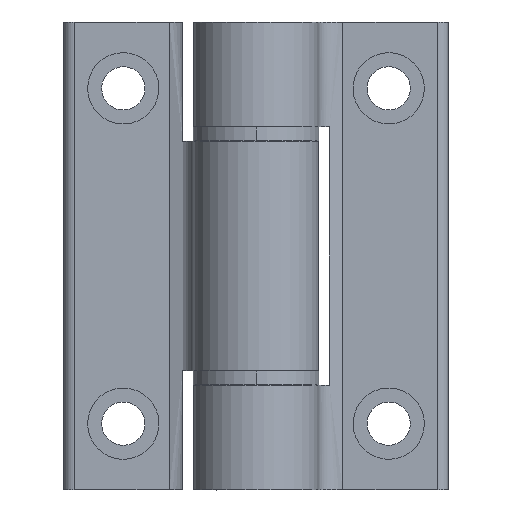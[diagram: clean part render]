
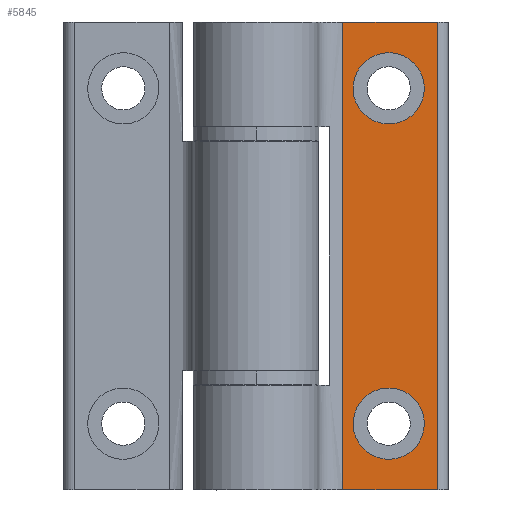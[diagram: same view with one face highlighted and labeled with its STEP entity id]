
A CAD part, front view. The second image highlights one B-rep face of the part: STEP entity #5845.
In plain terms, the highlighted planar face has unit normal (0, -1, 0).
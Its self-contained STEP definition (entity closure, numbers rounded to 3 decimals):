
#1107=CARTESIAN_POINT('',(8.252,4.75,-28.875));
#1108=VERTEX_POINT('',#1107);
#1117=CARTESIAN_POINT('',(14.85,4.75,-24.));
#1118=VERTEX_POINT('',#1117);
#1119=CARTESIAN_POINT('',(9.75,4.75,-24.));
#1120=DIRECTION('',(0.0,1.0,0.0));
#1121=DIRECTION('',(1.0,0.0,0.0));
#1122=AXIS2_PLACEMENT_3D('',#1119,#1120,#1121);
#1123=CIRCLE('',#1122,5.1);
#1124=EDGE_CURVE('',#1118,#1108,#1123,.T.);
#1126=CARTESIAN_POINT('',(11.248,4.75,-19.125));
#1127=VERTEX_POINT('',#1126);
#1128=CARTESIAN_POINT('',(9.75,4.75,-24.));
#1129=DIRECTION('',(0.0,1.0,0.0));
#1130=DIRECTION('',(1.0,0.0,0.0));
#1131=AXIS2_PLACEMENT_3D('',#1128,#1129,#1130);
#1132=CIRCLE('',#1131,5.1);
#1133=EDGE_CURVE('',#1127,#1118,#1132,.T.);
#1251=CARTESIAN_POINT('',(8.252,4.75,19.125));
#1252=VERTEX_POINT('',#1251);
#1261=CARTESIAN_POINT('',(14.85,4.75,24.0));
#1262=VERTEX_POINT('',#1261);
#1263=CARTESIAN_POINT('',(9.75,4.75,24.0));
#1264=DIRECTION('',(0.0,1.0,0.0));
#1265=DIRECTION('',(1.0,0.0,0.0));
#1266=AXIS2_PLACEMENT_3D('',#1263,#1264,#1265);
#1267=CIRCLE('',#1266,5.1);
#1268=EDGE_CURVE('',#1262,#1252,#1267,.T.);
#1270=CARTESIAN_POINT('',(11.248,4.75,28.875));
#1271=VERTEX_POINT('',#1270);
#1272=CARTESIAN_POINT('',(9.75,4.75,24.0));
#1273=DIRECTION('',(0.0,1.0,0.0));
#1274=DIRECTION('',(1.0,0.0,0.0));
#1275=AXIS2_PLACEMENT_3D('',#1272,#1273,#1274);
#1276=CIRCLE('',#1275,5.1);
#1277=EDGE_CURVE('',#1271,#1262,#1276,.T.);
#4379=CARTESIAN_POINT('',(9.75,4.75,24.0));
#4380=DIRECTION('',(0.0,1.0,0.0));
#4381=DIRECTION('',(1.0,0.0,0.0));
#4382=AXIS2_PLACEMENT_3D('',#4379,#4380,#4381);
#4383=CIRCLE('',#4382,5.1);
#4384=EDGE_CURVE('',#1252,#1271,#4383,.T.);
#4489=CARTESIAN_POINT('',(9.75,4.75,-24.));
#4490=DIRECTION('',(0.0,1.0,0.0));
#4491=DIRECTION('',(1.0,0.0,0.0));
#4492=AXIS2_PLACEMENT_3D('',#4489,#4490,#4491);
#4493=CIRCLE('',#4492,5.1);
#4494=EDGE_CURVE('',#1108,#1127,#4493,.T.);
#5304=CARTESIAN_POINT('',(3.16,4.75,-33.5));
#5305=VERTEX_POINT('',#5304);
#5313=CARTESIAN_POINT('',(3.16,4.75,33.5));
#5314=VERTEX_POINT('',#5313);
#5315=CARTESIAN_POINT('',(3.16,4.75,-33.5));
#5316=DIRECTION('',(0.0,0.0,1.0));
#5317=VECTOR('',#5316,67.0);
#5318=LINE('',#5315,#5317);
#5319=EDGE_CURVE('',#5305,#5314,#5318,.T.);
#5786=CARTESIAN_POINT('',(16.75,4.749,33.5));
#5787=VERTEX_POINT('',#5786);
#5795=CARTESIAN_POINT('',(16.75,4.75,-33.5));
#5796=VERTEX_POINT('',#5795);
#5797=CARTESIAN_POINT('',(16.75,4.75,-33.5));
#5798=DIRECTION('',(0.0,0.0,1.0));
#5799=VECTOR('',#5798,67.0);
#5800=LINE('',#5797,#5799);
#5801=EDGE_CURVE('',#5796,#5787,#5800,.T.);
#5814=CARTESIAN_POINT('',(16.75,4.75,-33.5));
#5815=DIRECTION('',(0.0,-1.0,0.0));
#5816=DIRECTION('',(1.0,0.0,0.0));
#5817=AXIS2_PLACEMENT_3D('',#5814,#5815,#5816);
#5818=PLANE('',#5817);
#5819=CARTESIAN_POINT('',(16.75,4.749,33.5));
#5820=DIRECTION('',(-1.0,0.0,0.0));
#5821=VECTOR('',#5820,13.59);
#5822=LINE('',#5819,#5821);
#5823=EDGE_CURVE('',#5787,#5314,#5822,.T.);
#5824=ORIENTED_EDGE('',*,*,#5823,.T.);
#5825=ORIENTED_EDGE('',*,*,#5319,.F.);
#5826=CARTESIAN_POINT('',(3.16,4.75,-33.5));
#5827=DIRECTION('',(1.0,0.0,0.0));
#5828=VECTOR('',#5827,13.59);
#5829=LINE('',#5826,#5828);
#5830=EDGE_CURVE('',#5305,#5796,#5829,.T.);
#5831=ORIENTED_EDGE('',*,*,#5830,.T.);
#5832=ORIENTED_EDGE('',*,*,#5801,.T.);
#5833=EDGE_LOOP('',(#5824,#5825,#5831,#5832));
#5834=FACE_OUTER_BOUND('',#5833,.T.);
#5835=ORIENTED_EDGE('',*,*,#1268,.T.);
#5836=ORIENTED_EDGE('',*,*,#4384,.T.);
#5837=ORIENTED_EDGE('',*,*,#1277,.T.);
#5838=EDGE_LOOP('',(#5835,#5836,#5837));
#5839=FACE_BOUND('',#5838,.T.);
#5840=ORIENTED_EDGE('',*,*,#1124,.T.);
#5841=ORIENTED_EDGE('',*,*,#4494,.T.);
#5842=ORIENTED_EDGE('',*,*,#1133,.T.);
#5843=EDGE_LOOP('',(#5840,#5841,#5842));
#5844=FACE_BOUND('',#5843,.T.);
#5845=ADVANCED_FACE('',(#5834,#5839,#5844),#5818,.T.);
